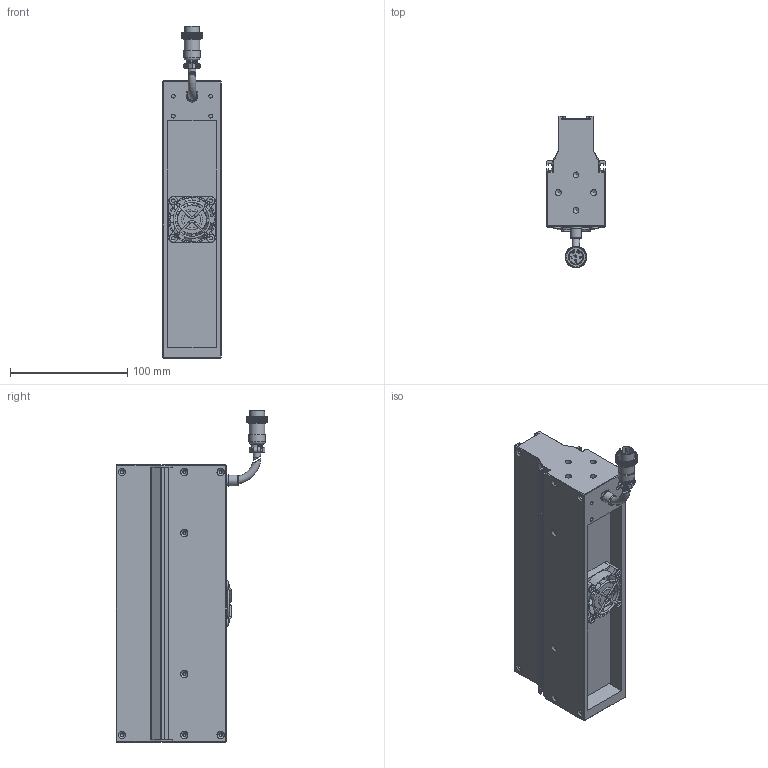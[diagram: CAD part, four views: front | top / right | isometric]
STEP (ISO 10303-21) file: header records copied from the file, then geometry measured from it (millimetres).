
FILE_DESCRIPTION (( 'STEP AP203' ), '1' );
FILE_NAME ('OPT-LSS236-R-V3.1U尨砩芞.STEP', '2025-01-21T01:29:52', ( 'USER' ), ( '' ), 'SwSTEP 2.0', 'SolidWorks 2016', '' );
FILE_SCHEMA (( 'CONFIG_CONTROL_DESIGN' ));
Products named in the file (2): OPT-LSS236-R-V3.1U尨砩芞
Bounding box: 50 x 129.15 x 282.83 mm (x, y, z)
Volume: 789568.8 mm3; surface area: 135718.8 mm2
Topology: 10 solids, 18 shells, 3506 faces, 7734 edges, 4311 vertices
Faces by surface type: bspline 2086, cylinder 692, plane 616, torus 63, cone 49
Full cylindrical faces by diameter (mm): 0.95 x6, 1.1 x2, 1.4 x2, 1.6 x4, 2 x5, 2.5 x16, 3.2 x8, 3.4 x16, 3.5 x4, 5 x8, 6.2 x4, 6.4 x3, 7.5 x1, 8.6 x1, 9.3 x1, 9.8 x1, 10 x1, 13.2 x1, 14 x1, 16.1 x1, 24.8 x1, 38 x1
Entity records: 118718 total; most frequent: CARTESIAN_POINT 60998, ORIENTED_EDGE 15028, EDGE_CURVE 7514, B_SPLINE_CURVE_WITH_KNOTS 5447, DIRECTION 5372, VERTEX_POINT 4258, EDGE_LOOP 3752, FACE_OUTER_BOUND 3620
